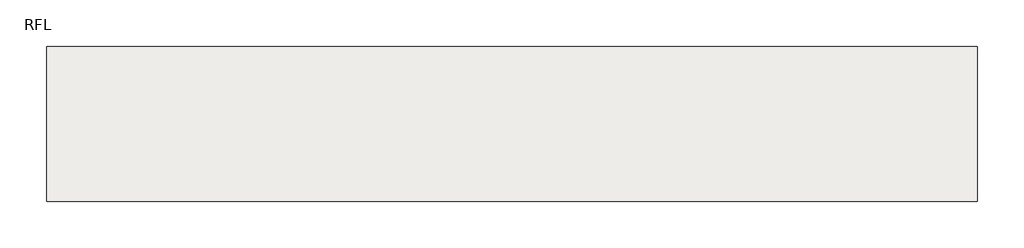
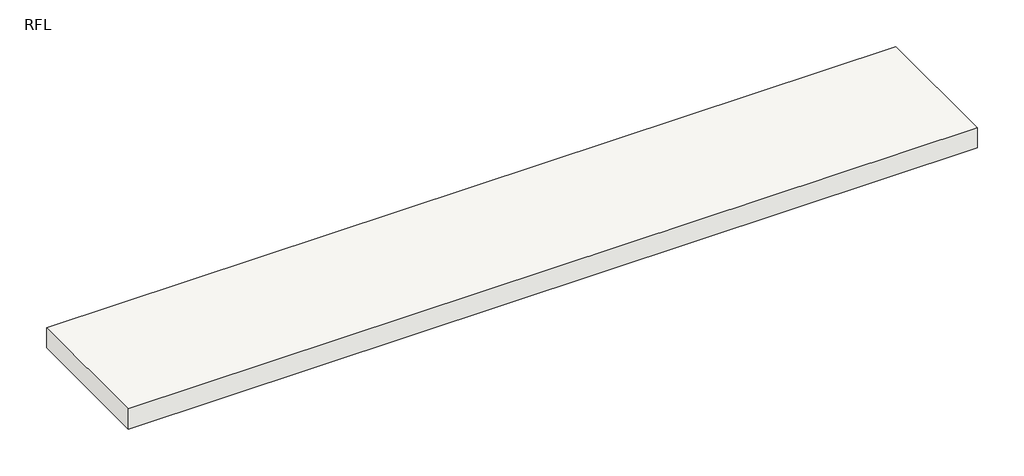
# One storey: 1 slab.
"""IFC4 building model written with IfcOpenShell, lengths in millimetres."""

from ifc_helpers import new_model, si_unit, frame, origin, place, context, project, spatial, polyline, outline, extrude, element, save

model = new_model("IFC4")

# Units and contexts
model_context = context("Model", 3, world=origin())
ifc_project = project(units=[si_unit("LENGTHUNIT", "METRE", prefix="MILLI")], contexts=[model_context])

# Site, building, storey
site = spatial("IfcSite", under=ifc_project)
building = spatial("IfcBuilding", under=site)
storey = spatial("IfcBuildingStorey", under=building, Name="RFL", Elevation=9850.0)

# Slab
placement = place(None, origin())
element("IfcSlab", 1, ObjectType="RFL_一般_15cm", at=placement, inside=storey, context=model_context, shape_type="SweptSolid", body=[
    extrude(outline(polyline([(362.3317681, -7062.8625998), (362.3317681, -8062.8625998), (-5637.6682319, -8062.8625998), (-5637.6682319, -7062.8625998), (362.3317681, -7062.8625998)])), frame((0.0, 0.0, 9700.0), z_axis=(0.0, 0.0, 1.0), x_axis=(1.0, 0.0, 0.0)), (0.0, 0.0, 1.0), 150.0),
])

save(model, "model.ifc")
